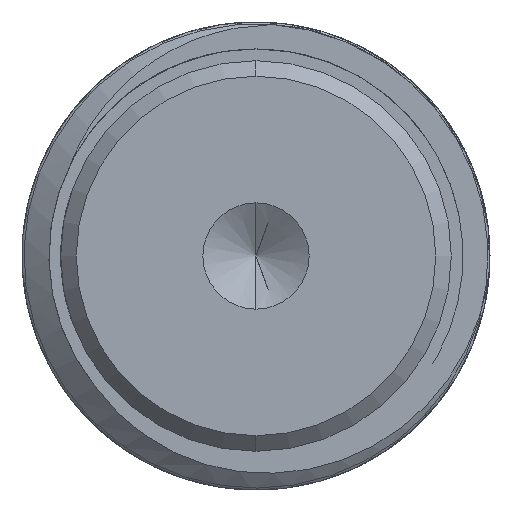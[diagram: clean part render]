
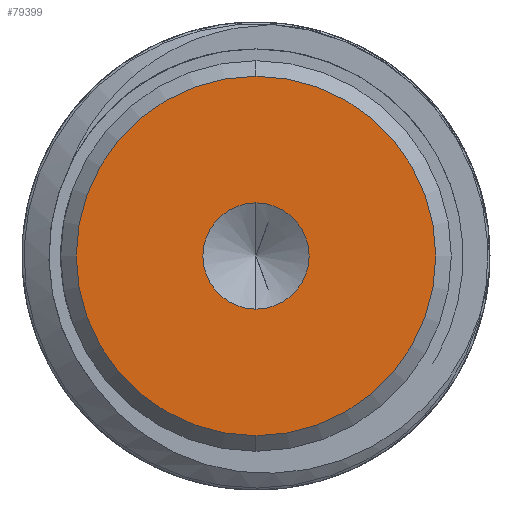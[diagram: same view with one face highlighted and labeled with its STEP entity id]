
A CAD part, left-side view. The second image highlights one B-rep face of the part: STEP entity #79399.
In plain terms, the highlighted planar face has unit normal (-1, 0, 0).
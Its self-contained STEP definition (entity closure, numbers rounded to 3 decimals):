
#3039 = DIRECTION ( 'NONE',  ( -1., 0., 0. ) ) ;
#3570 = CARTESIAN_POINT ( 'NONE',  ( -290.25, 0., -11.5 ) ) ;
#6186 = VERTEX_POINT ( 'NONE', #15008 ) ;
#10370 = ORIENTED_EDGE ( 'NONE', *, *, #14735, .T. ) ;
#10527 = CARTESIAN_POINT ( 'NONE',  ( -290.25, 0., 0. ) ) ;
#14209 = EDGE_CURVE ( 'NONE', #67684, #6186, #32951, .T. ) ;
#14735 = EDGE_CURVE ( 'NONE', #96177, #92593, #65526, .T. ) ;
#15008 = CARTESIAN_POINT ( 'NONE',  ( -290.25, 0., -3.4 ) ) ;
#18261 = CARTESIAN_POINT ( 'NONE',  ( -290.25, 0., 0. ) ) ;
#18310 = FACE_OUTER_BOUND ( 'NONE', #94747, .T. ) ;
#18897 = DIRECTION ( 'NONE',  ( -1., 0., 0. ) ) ;
#23679 = DIRECTION ( 'NONE',  ( 0., 0., -1. ) ) ;
#24007 = CARTESIAN_POINT ( 'NONE',  ( -290.25, 0., 0. ) ) ;
#25312 = AXIS2_PLACEMENT_3D ( 'NONE', #84899, #32503, #92046 ) ;
#25331 = FACE_BOUND ( 'NONE', #61769, .T. ) ;
#32503 = DIRECTION ( 'NONE',  ( 1., 0., 0. ) ) ;
#32951 = CIRCLE ( 'NONE', #89828, 3.4 ) ;
#33137 = PLANE ( 'NONE',  #25312 ) ;
#41347 = DIRECTION ( 'NONE',  ( 0., 0., 1. ) ) ;
#44852 = CIRCLE ( 'NONE', #52803, 11.5 ) ;
#52803 = AXIS2_PLACEMENT_3D ( 'NONE', #24007, #76390, #23679 ) ;
#53328 = CARTESIAN_POINT ( 'NONE',  ( -290.25, 0., 3.4 ) ) ;
#53802 = AXIS2_PLACEMENT_3D ( 'NONE', #18261, #18897, #41347 ) ;
#61506 = ORIENTED_EDGE ( 'NONE', *, *, #14209, .F. ) ;
#61769 = EDGE_LOOP ( 'NONE', ( #61506, #86797 ) ) ;
#62549 = AXIS2_PLACEMENT_3D ( 'NONE', #78822, #3039, #62652 ) ;
#62652 = DIRECTION ( 'NONE',  ( 0., 0., -1. ) ) ;
#63913 = DIRECTION ( 'NONE',  ( -1., 0., 0. ) ) ;
#65526 = CIRCLE ( 'NONE', #62549, 11.5 ) ;
#66315 = EDGE_CURVE ( 'NONE', #6186, #67684, #66902, .T. ) ;
#66902 = CIRCLE ( 'NONE', #53802, 3.4 ) ;
#67684 = VERTEX_POINT ( 'NONE', #53328 ) ;
#70204 = CARTESIAN_POINT ( 'NONE',  ( -290.25, 0., 11.5 ) ) ;
#76390 = DIRECTION ( 'NONE',  ( -1., 0., 0. ) ) ;
#78822 = CARTESIAN_POINT ( 'NONE',  ( -290.25, 0., 0. ) ) ;
#79399 = ADVANCED_FACE ( 'NONE', ( #25331, #18310 ), #33137, .F. ) ;
#82122 = ORIENTED_EDGE ( 'NONE', *, *, #87227, .T. ) ;
#84899 = CARTESIAN_POINT ( 'NONE',  ( -290.25, 12.5, 0. ) ) ;
#86797 = ORIENTED_EDGE ( 'NONE', *, *, #66315, .F. ) ;
#87227 = EDGE_CURVE ( 'NONE', #92593, #96177, #44852, .T. ) ;
#89828 = AXIS2_PLACEMENT_3D ( 'NONE', #10527, #63913, #93179 ) ;
#92046 = DIRECTION ( 'NONE',  ( 0., 0., -1. ) ) ;
#92593 = VERTEX_POINT ( 'NONE', #3570 ) ;
#93179 = DIRECTION ( 'NONE',  ( 0., 0., 1. ) ) ;
#94747 = EDGE_LOOP ( 'NONE', ( #82122, #10370 ) ) ;
#96177 = VERTEX_POINT ( 'NONE', #70204 ) ;
